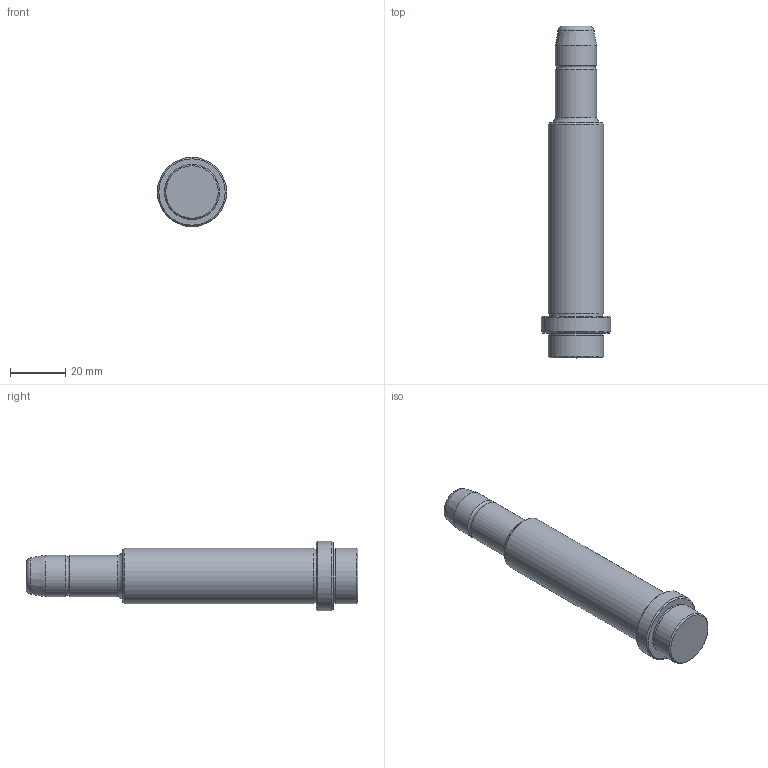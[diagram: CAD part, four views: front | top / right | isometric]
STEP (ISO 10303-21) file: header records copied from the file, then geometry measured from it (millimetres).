
FILE_DESCRIPTION( ( 'STEP AP203' ), '1' );
FILE_NAME( 'D:/Cuma/24 03 2009/D03/D03_15X76X35.step', '2002-12-31T23:33:51', ( ' ' ), ( ' ' ), 'XStep 1.0', ' ', ' ' );
FILE_SCHEMA( ( 'CONFIG_CONTROL_DESIGN' ) );
Length unit declared in the file: metre
Products named in the file (1): 1
Bounding box: 25 x 120 x 25 mm (x, y, z)
Volume: 33684.2 mm3; surface area: 7915.5 mm2
Topology: 1 solids, 1 shells, 21 faces, 36 edges, 21 vertices
Faces by surface type: cylinder 7, plane 6, cone 5, torus 3
Full cylindrical faces by diameter (mm): 15 x2, 19.5 x2, 20 x2, 25 x1
Entity records: 459 total; most frequent: DIRECTION 84, CARTESIAN_POINT 62, AXIS2_PLACEMENT_3D 42, EDGE_LOOP 40, ORIENTED_EDGE 40, FACE_OUTER_BOUND 31, ADVANCED_FACE 21, EDGE_CURVE 20
